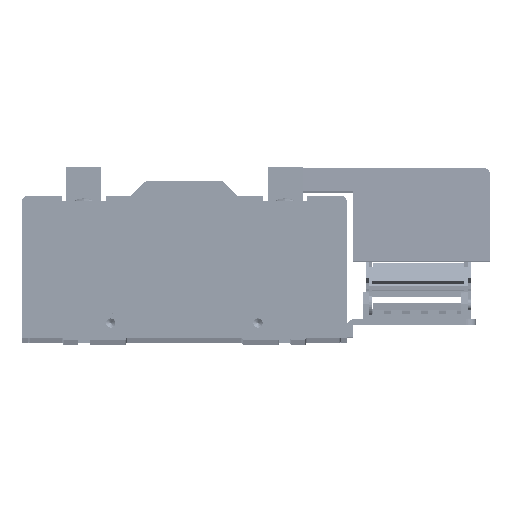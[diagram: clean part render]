
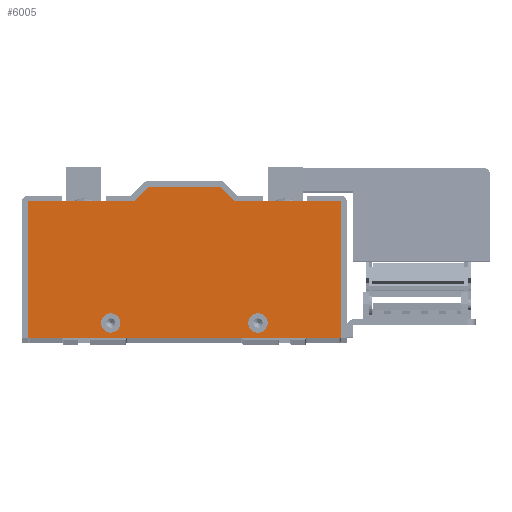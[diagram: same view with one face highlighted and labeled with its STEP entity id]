
A CAD part, top view. The second image highlights one B-rep face of the part: STEP entity #6005.
In plain terms, the highlighted planar face has unit normal (0, 0, 1).
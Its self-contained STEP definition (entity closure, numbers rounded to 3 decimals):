
#5898 = ORIENTED_EDGE ( 'NONE', *, *, #132502, .F. ) ;
#5901 = EDGE_LOOP ( 'NONE', ( #5903, #5906 ) ) ;
#5903 = ORIENTED_EDGE ( 'NONE', *, *, #5905, .F. ) ;
#5905 = EDGE_CURVE ( 'NONE', #133057, #132484, #55958, .T. ) ;
#5906 = ORIENTED_EDGE ( 'NONE', *, *, #132487, .F. ) ;
#5908 = EDGE_LOOP ( 'NONE', ( #5909, #5911, #5913, #5915, #5917, #5994, #5996, #5998 ) ) ;
#5909 = ORIENTED_EDGE ( 'NONE', *, *, #8301, .T. ) ;
#5911 = ORIENTED_EDGE ( 'NONE', *, *, #9095, .T. ) ;
#5913 = ORIENTED_EDGE ( 'NONE', *, *, #9262, .T. ) ;
#5915 = ORIENTED_EDGE ( 'NONE', *, *, #9129, .T. ) ;
#5917 = ORIENTED_EDGE ( 'NONE', *, *, #9155, .T. ) ;
#5923 = EDGE_CURVE ( 'NONE', #9024, #9159, #55955, .T. ) ;
#5994 = ORIENTED_EDGE ( 'NONE', *, *, #9228, .T. ) ;
#5996 = ORIENTED_EDGE ( 'NONE', *, *, #8287, .T. ) ;
#5998 = ORIENTED_EDGE ( 'NONE', *, *, #5923, .T. ) ;
#6005 = ADVANCED_FACE ( 'NONE', ( #56189, #56188, #56187 ), #56226, .T. ) ;
#6008 = EDGE_LOOP ( 'NONE', ( #6010, #5898 ) ) ;
#6010 = ORIENTED_EDGE ( 'NONE', *, *, #6012, .F. ) ;
#6012 = EDGE_CURVE ( 'NONE', #133561, #128848, #56209, .T. ) ;
#8287 = EDGE_CURVE ( 'NONE', #9225, #9024, #60982, .T. ) ;
#8301 = EDGE_CURVE ( 'NONE', #9159, #8311, #61100, .T. ) ;
#8311 = VERTEX_POINT ( 'NONE', #61144 ) ;
#9024 = VERTEX_POINT ( 'NONE', #62380 ) ;
#9091 = VERTEX_POINT ( 'NONE', #62240 ) ;
#9095 = EDGE_CURVE ( 'NONE', #8311, #9091, #62226, .T. ) ;
#9119 = VERTEX_POINT ( 'NONE', #62765 ) ;
#9129 = EDGE_CURVE ( 'NONE', #9255, #9119, #62554, .T. ) ;
#9149 = VERTEX_POINT ( 'NONE', #62730 ) ;
#9155 = EDGE_CURVE ( 'NONE', #9119, #9149, #62656, .T. ) ;
#9159 = VERTEX_POINT ( 'NONE', #62646 ) ;
#9225 = VERTEX_POINT ( 'NONE', #62692 ) ;
#9228 = EDGE_CURVE ( 'NONE', #9149, #9225, #62689, .T. ) ;
#9255 = VERTEX_POINT ( 'NONE', #62511 ) ;
#9262 = EDGE_CURVE ( 'NONE', #9091, #9255, #63006, .T. ) ;
#55954 = CARTESIAN_POINT ( 'NONE',  ( -85., 37., 9.525 ) ) ;
#55955 = LINE ( 'NONE', #55954, #56057 ) ;
#55956 = AXIS2_PLACEMENT_3D ( 'NONE', #56080, #56079, #56078 ) ;
#55958 = CIRCLE ( 'NONE', #55956, 5.25 ) ;
#56056 = DIRECTION ( 'NONE',  ( -1., 0., 0. ) ) ;
#56057 = VECTOR ( 'NONE', #56056, 1000. ) ;
#56078 = DIRECTION ( 'NONE',  ( 1., 0., 0. ) ) ;
#56079 = DIRECTION ( 'NONE',  ( 0., 0., 1. ) ) ;
#56080 = CARTESIAN_POINT ( 'NONE',  ( 40., -29., 9.525 ) ) ;
#56187 = FACE_OUTER_BOUND ( 'NONE', #5908, .T. ) ;
#56188 = FACE_BOUND ( 'NONE', #5901, .T. ) ;
#56189 = FACE_BOUND ( 'NONE', #6008, .T. ) ;
#56209 = CIRCLE ( 'NONE', #56247, 5.25 ) ;
#56223 = DIRECTION ( 'NONE',  ( 1., 0., 0. ) ) ;
#56224 = DIRECTION ( 'NONE',  ( 0., 0., 1. ) ) ;
#56225 = CARTESIAN_POINT ( 'NONE',  ( -85., 37., 9.525 ) ) ;
#56226 = PLANE ( 'NONE',  #56235 ) ;
#56235 = AXIS2_PLACEMENT_3D ( 'NONE', #56225, #56224, #56223 ) ;
#56244 = DIRECTION ( 'NONE',  ( 1., 0., 0. ) ) ;
#56245 = DIRECTION ( 'NONE',  ( 0., 0., 1. ) ) ;
#56246 = CARTESIAN_POINT ( 'NONE',  ( -40., -29., 9.525 ) ) ;
#56247 = AXIS2_PLACEMENT_3D ( 'NONE', #56246, #56245, #56244 ) ;
#60981 = CARTESIAN_POINT ( 'NONE',  ( -27.5, 37., 9.525 ) ) ;
#60982 = LINE ( 'NONE', #60981, #61117 ) ;
#61097 = DIRECTION ( 'NONE',  ( 0., -1., 0. ) ) ;
#61098 = VECTOR ( 'NONE', #61097, 1000. ) ;
#61099 = CARTESIAN_POINT ( 'NONE',  ( -85., 37., 9.525 ) ) ;
#61100 = LINE ( 'NONE', #61099, #61098 ) ;
#61116 = DIRECTION ( 'NONE',  ( -0.707, -0.707, 0. ) ) ;
#61117 = VECTOR ( 'NONE', #61116, 1000. ) ;
#61144 = CARTESIAN_POINT ( 'NONE',  ( -85., -37., 9.525 ) ) ;
#62220 = DIRECTION ( 'NONE',  ( 1., 0., 0. ) ) ;
#62221 = VECTOR ( 'NONE', #62220, 1000. ) ;
#62223 = CARTESIAN_POINT ( 'NONE',  ( -85., -37., 9.525 ) ) ;
#62226 = LINE ( 'NONE', #62223, #62221 ) ;
#62240 = CARTESIAN_POINT ( 'NONE',  ( 85., -37., 9.525 ) ) ;
#62380 = CARTESIAN_POINT ( 'NONE',  ( -27.5, 37., 9.525 ) ) ;
#62511 = CARTESIAN_POINT ( 'NONE',  ( 85., 37., 9.525 ) ) ;
#62551 = DIRECTION ( 'NONE',  ( -1., 0., 0. ) ) ;
#62552 = VECTOR ( 'NONE', #62551, 1000. ) ;
#62553 = CARTESIAN_POINT ( 'NONE',  ( 27.5, 37., 9.525 ) ) ;
#62554 = LINE ( 'NONE', #62553, #62552 ) ;
#62646 = CARTESIAN_POINT ( 'NONE',  ( -85., 37., 9.525 ) ) ;
#62653 = DIRECTION ( 'NONE',  ( -0.707, 0.707, 0. ) ) ;
#62654 = VECTOR ( 'NONE', #62653, 1000. ) ;
#62655 = CARTESIAN_POINT ( 'NONE',  ( 19.5, 45., 9.525 ) ) ;
#62656 = LINE ( 'NONE', #62655, #62654 ) ;
#62686 = DIRECTION ( 'NONE',  ( -1., 0., 0. ) ) ;
#62687 = VECTOR ( 'NONE', #62686, 1000. ) ;
#62688 = CARTESIAN_POINT ( 'NONE',  ( -19.5, 45., 9.525 ) ) ;
#62689 = LINE ( 'NONE', #62688, #62687 ) ;
#62692 = CARTESIAN_POINT ( 'NONE',  ( -19.5, 45., 9.525 ) ) ;
#62730 = CARTESIAN_POINT ( 'NONE',  ( 19.5, 45., 9.525 ) ) ;
#62765 = CARTESIAN_POINT ( 'NONE',  ( 27.5, 37., 9.525 ) ) ;
#62833 = DIRECTION ( 'NONE',  ( 0., 1., 0. ) ) ;
#62834 = VECTOR ( 'NONE', #62833, 1000. ) ;
#63005 = CARTESIAN_POINT ( 'NONE',  ( 85., 37., 9.525 ) ) ;
#63006 = LINE ( 'NONE', #63005, #62834 ) ;
#72409 = CARTESIAN_POINT ( 'NONE',  ( -45.25, -29., 9.525 ) ) ;
#73607 = DIRECTION ( 'NONE',  ( 1., 0., 0. ) ) ;
#73609 = DIRECTION ( 'NONE',  ( 0., 0., 1. ) ) ;
#73611 = CARTESIAN_POINT ( 'NONE',  ( 40., -29., 9.525 ) ) ;
#73612 = AXIS2_PLACEMENT_3D ( 'NONE', #73611, #73609, #73607 ) ;
#73614 = CIRCLE ( 'NONE', #73612, 5.25 ) ;
#73629 = CARTESIAN_POINT ( 'NONE',  ( 34.75, -29., 9.525 ) ) ;
#73671 = DIRECTION ( 'NONE',  ( 1., 0., 0. ) ) ;
#73672 = DIRECTION ( 'NONE',  ( 0., 0., 1. ) ) ;
#73673 = CARTESIAN_POINT ( 'NONE',  ( -40., -29., 9.525 ) ) ;
#73674 = AXIS2_PLACEMENT_3D ( 'NONE', #73673, #73672, #73671 ) ;
#73675 = CIRCLE ( 'NONE', #73674, 5.25 ) ;
#88890 = CARTESIAN_POINT ( 'NONE',  ( 45.25, -29., 9.525 ) ) ;
#90955 = CARTESIAN_POINT ( 'NONE',  ( -34.75, -29., 9.525 ) ) ;
#128848 = VERTEX_POINT ( 'NONE', #72409 ) ;
#132484 = VERTEX_POINT ( 'NONE', #73629 ) ;
#132487 = EDGE_CURVE ( 'NONE', #132484, #133057, #73614, .T. ) ;
#132502 = EDGE_CURVE ( 'NONE', #128848, #133561, #73675, .T. ) ;
#133057 = VERTEX_POINT ( 'NONE', #88890 ) ;
#133561 = VERTEX_POINT ( 'NONE', #90955 ) ;
